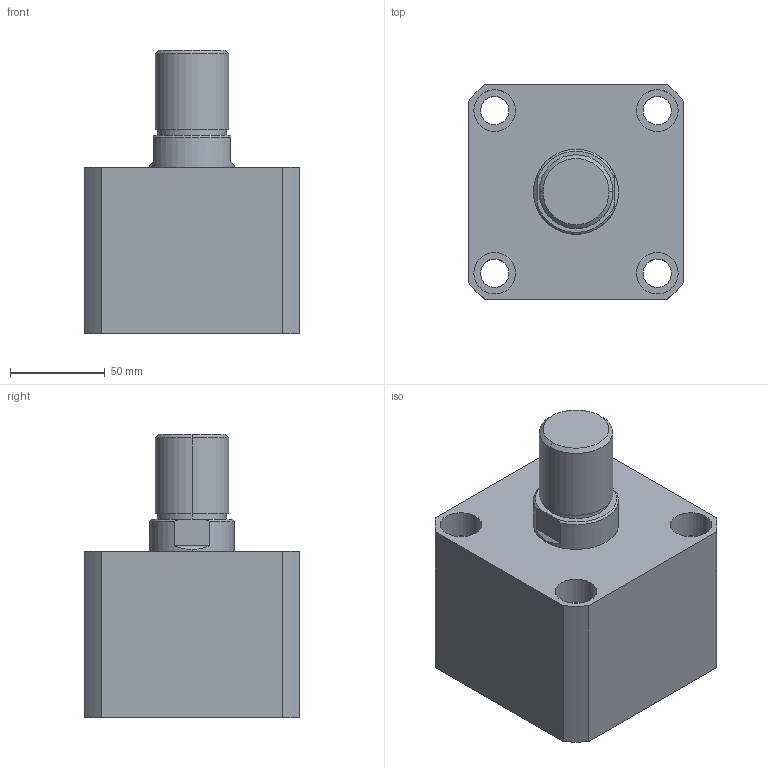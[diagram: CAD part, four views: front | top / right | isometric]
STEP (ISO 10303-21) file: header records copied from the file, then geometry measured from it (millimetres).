
FILE_DESCRIPTION (( 'STEP AP203' ), '1' );
FILE_NAME ('HTB-SDMB80-10W.STEP', '2019-10-09T05:57:30', ( '微软用户' ), ( '微软中国' ), 'SwSTEP 2.0', 'SolidWorks 2012', '' );
FILE_SCHEMA (( 'CONFIG_CONTROL_DESIGN' ));
Length unit declared in the file: millimetre
Products named in the file (3): HTB-SDMB80-10W活塞杆; HTB-SDMB80-10掛极; HTB-SDMB80-10W
Assembly tree (2 placements, depth 2):
  HTB-SDMB80-10W
    HTB-SDMB80-10掛极
    HTB-SDMB80-10W活塞杆
Bounding box: 114 x 114 x 150 mm (x, y, z)
Volume: 1087205.6 mm3; surface area: 135642.9 mm2
Topology: 2 solids, 2 shells, 141 faces, 337 edges, 222 vertices
Faces by surface type: plane 67, cylinder 48, bspline 16, torus 6, cone 4
Entity records: 5180 total; most frequent: CARTESIAN_POINT 1597, ORIENTED_EDGE 674, DIRECTION 669, EDGE_CURVE 337, AXIS2_PLACEMENT_3D 242, VERTEX_POINT 222, VECTOR 185, LINE 185
